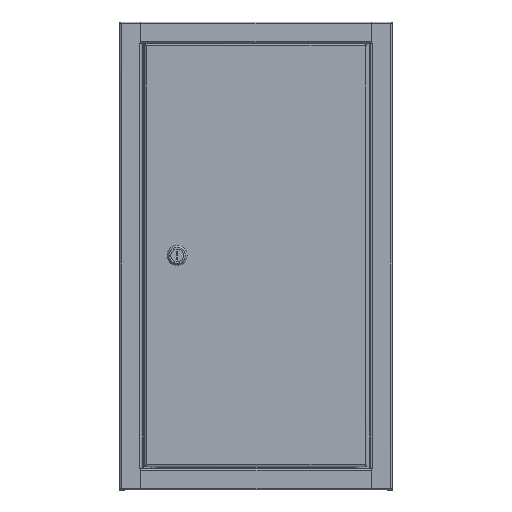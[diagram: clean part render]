
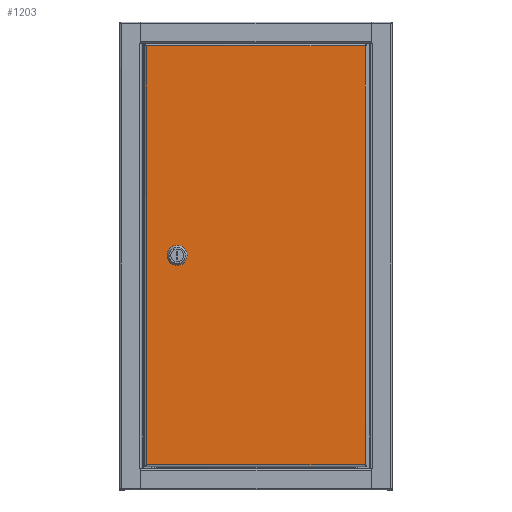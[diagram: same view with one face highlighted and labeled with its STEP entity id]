
A CAD part, top view. The second image highlights one B-rep face of the part: STEP entity #1203.
In plain terms, the highlighted planar face has unit normal (0, 0, 1).
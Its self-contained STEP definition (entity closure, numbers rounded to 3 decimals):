
#9 = DIRECTION ( 'NONE',  ( 0., 1., 0. ) ) ;
#42 = LINE ( 'NONE', #184, #8600 ) ;
#174 = ORIENTED_EDGE ( 'NONE', *, *, #1180, .F. ) ;
#184 = CARTESIAN_POINT ( 'NONE',  ( -5.7, -4.1, 576.901 ) ) ;
#274 = CARTESIAN_POINT ( 'NONE',  ( -6.9, -496.5, 576.901 ) ) ;
#744 = CARTESIAN_POINT ( 'NONE',  ( -218.9, -242.1, 576.901 ) ) ;
#1180 = EDGE_CURVE ( 'NONE', #2510, #1387, #1227, .T. ) ;
#1203 = ADVANCED_FACE ( 'NONE', ( #8258, #9175 ), #12797, .T. ) ;
#1227 = LINE ( 'NONE', #10511, #13091 ) ;
#1378 = EDGE_CURVE ( 'NONE', #15110, #2510, #2709, .T. ) ;
#1387 = VERTEX_POINT ( 'NONE', #4938 ) ;
#1475 = LINE ( 'NONE', #13485, #1649 ) ;
#1649 = VECTOR ( 'NONE', #13377, 1000. ) ;
#2510 = VERTEX_POINT ( 'NONE', #3971 ) ;
#2709 = LINE ( 'NONE', #3846, #4212 ) ;
#2869 = CARTESIAN_POINT ( 'NONE',  ( -6.9, -4.1, 576.901 ) ) ;
#3541 = CARTESIAN_POINT ( 'NONE',  ( -218.9, -242.1, 576.901 ) ) ;
#3846 = CARTESIAN_POINT ( 'NONE',  ( -218.9, -242.1, 576.901 ) ) ;
#3971 = CARTESIAN_POINT ( 'NONE',  ( -236.9, -242.1, 576.901 ) ) ;
#4039 = VECTOR ( 'NONE', #4968, 1000. ) ;
#4114 = CARTESIAN_POINT ( 'NONE',  ( -218.9, -258.5, 576.901 ) ) ;
#4137 = VECTOR ( 'NONE', #5492, 1000. ) ;
#4212 = VECTOR ( 'NONE', #13187, 1000. ) ;
#4763 = EDGE_CURVE ( 'NONE', #1387, #9434, #13240, .T. ) ;
#4777 = VERTEX_POINT ( 'NONE', #10938 ) ;
#4938 = CARTESIAN_POINT ( 'NONE',  ( -236.9, -258.5, 576.901 ) ) ;
#4968 = DIRECTION ( 'NONE',  ( 0., 1., 0. ) ) ;
#5023 = CARTESIAN_POINT ( 'NONE',  ( -6.9, -496.5, 576.901 ) ) ;
#5045 = LINE ( 'NONE', #744, #4137 ) ;
#5048 = EDGE_CURVE ( 'NONE', #7250, #6985, #42, .T. ) ;
#5492 = DIRECTION ( 'NONE',  ( 0., 1., 0. ) ) ;
#6378 = ORIENTED_EDGE ( 'NONE', *, *, #13853, .T. ) ;
#6759 = DIRECTION ( 'NONE',  ( 0., -1., 0. ) ) ;
#6985 = VERTEX_POINT ( 'NONE', #12888 ) ;
#7001 = ORIENTED_EDGE ( 'NONE', *, *, #8172, .T. ) ;
#7250 = VERTEX_POINT ( 'NONE', #2869 ) ;
#7311 = EDGE_LOOP ( 'NONE', ( #12110, #6378, #11770, #7001 ) ) ;
#7412 = EDGE_CURVE ( 'NONE', #10115, #4777, #1475, .T. ) ;
#7695 = VECTOR ( 'NONE', #9692, 1000. ) ;
#8115 = DIRECTION ( 'NONE',  ( 0., -1., 0. ) ) ;
#8172 = EDGE_CURVE ( 'NONE', #10115, #7250, #10317, .T. ) ;
#8258 = FACE_OUTER_BOUND ( 'NONE', #7311, .T. ) ;
#8600 = VECTOR ( 'NONE', #9440, 1000. ) ;
#9079 = CARTESIAN_POINT ( 'NONE',  ( -263.9, -4.1, 576.901 ) ) ;
#9175 = FACE_BOUND ( 'NONE', #9914, .T. ) ;
#9311 = CARTESIAN_POINT ( 'NONE',  ( -5.7, -498.5, 576.901 ) ) ;
#9410 = EDGE_CURVE ( 'NONE', #9434, #15110, #5045, .T. ) ;
#9434 = VERTEX_POINT ( 'NONE', #4114 ) ;
#9440 = DIRECTION ( 'NONE',  ( -1., 0., 0. ) ) ;
#9692 = DIRECTION ( 'NONE',  ( 1., 0., 0. ) ) ;
#9914 = EDGE_LOOP ( 'NONE', ( #14216, #12589, #15409, #174 ) ) ;
#10104 = LINE ( 'NONE', #9079, #11985 ) ;
#10115 = VERTEX_POINT ( 'NONE', #274 ) ;
#10317 = LINE ( 'NONE', #5023, #4039 ) ;
#10511 = CARTESIAN_POINT ( 'NONE',  ( -236.9, -242.1, 576.901 ) ) ;
#10938 = CARTESIAN_POINT ( 'NONE',  ( -263.9, -496.5, 576.901 ) ) ;
#11770 = ORIENTED_EDGE ( 'NONE', *, *, #7412, .F. ) ;
#11985 = VECTOR ( 'NONE', #6759, 1000. ) ;
#12110 = ORIENTED_EDGE ( 'NONE', *, *, #5048, .T. ) ;
#12236 = CARTESIAN_POINT ( 'NONE',  ( -218.9, -258.5, 576.901 ) ) ;
#12496 = AXIS2_PLACEMENT_3D ( 'NONE', #9311, #14062, #9 ) ;
#12589 = ORIENTED_EDGE ( 'NONE', *, *, #9410, .F. ) ;
#12797 = PLANE ( 'NONE',  #12496 ) ;
#12888 = CARTESIAN_POINT ( 'NONE',  ( -263.9, -4.1, 576.901 ) ) ;
#13091 = VECTOR ( 'NONE', #8115, 1000. ) ;
#13187 = DIRECTION ( 'NONE',  ( -1., 0., 0. ) ) ;
#13240 = LINE ( 'NONE', #12236, #7695 ) ;
#13377 = DIRECTION ( 'NONE',  ( -1., 0., 0. ) ) ;
#13485 = CARTESIAN_POINT ( 'NONE',  ( -5.7, -496.5, 576.901 ) ) ;
#13853 = EDGE_CURVE ( 'NONE', #6985, #4777, #10104, .T. ) ;
#14062 = DIRECTION ( 'NONE',  ( 0., 0., 1. ) ) ;
#14216 = ORIENTED_EDGE ( 'NONE', *, *, #1378, .F. ) ;
#15110 = VERTEX_POINT ( 'NONE', #3541 ) ;
#15409 = ORIENTED_EDGE ( 'NONE', *, *, #4763, .F. ) ;
